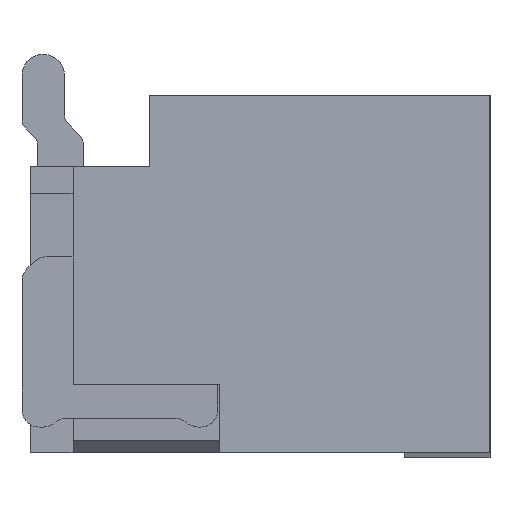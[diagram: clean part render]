
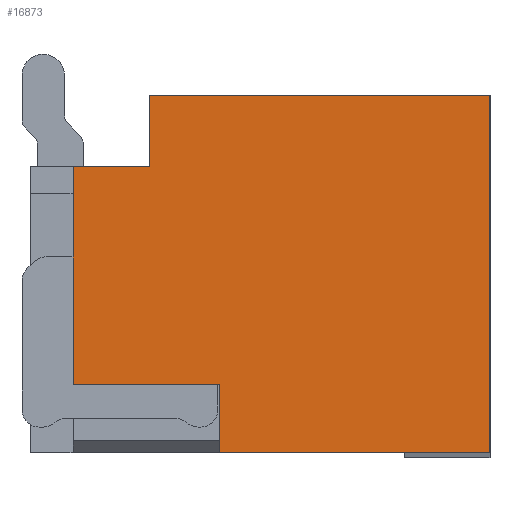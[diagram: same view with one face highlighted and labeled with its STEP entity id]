
A CAD part, left-side view. The second image highlights one B-rep face of the part: STEP entity #16873.
In plain terms, the highlighted planar face has unit normal (-1, 0, 0).
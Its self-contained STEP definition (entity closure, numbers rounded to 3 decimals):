
#173=DIRECTION('',(0.,0.,-1.));
#174=VECTOR('',#173,2.1);
#175=CARTESIAN_POINT('',(45.951,46.255,-2.015));
#176=LINE('',#175,#174);
#205=DIRECTION('',(0.,1.,0.));
#206=VECTOR('',#205,0.45);
#207=CARTESIAN_POINT('',(45.951,48.255,-2.435));
#208=LINE('',#207,#206);
#209=DIRECTION('',(0.,1.,0.));
#210=VECTOR('',#209,2.);
#211=CARTESIAN_POINT('',(45.951,46.255,-2.015));
#212=LINE('',#211,#210);
#213=DIRECTION('',(0.,0.,-1.));
#214=VECTOR('',#213,0.4);
#215=CARTESIAN_POINT('',(45.951,47.845,-3.715));
#216=LINE('',#215,#214);
#465=DIRECTION('',(0.,0.,1.));
#466=VECTOR('',#465,0.42);
#467=CARTESIAN_POINT('',(45.951,48.255,-2.435));
#468=LINE('',#467,#466);
#621=DIRECTION('',(0.,1.,0.));
#622=VECTOR('',#621,1.59);
#623=CARTESIAN_POINT('',(45.951,46.255,-4.115));
#624=LINE('',#623,#622);
#10499=DIRECTION('',(0.,0.,1.));
#10500=VECTOR('',#10499,1.28);
#10501=CARTESIAN_POINT('',(45.951,48.705,
-3.715));
#10502=LINE('',#10501,#10500);
#10597=DIRECTION('',(0.,1.,0.));
#10598=VECTOR('',#10597,0.86);
#10599=CARTESIAN_POINT('',(45.951,47.845,
-3.715));
#10600=LINE('',#10599,#10598);
#12771=CARTESIAN_POINT('',(45.951,48.705,
-2.435));
#12772=VERTEX_POINT('',#12771);
#12773=CARTESIAN_POINT('',(45.951,48.705,
-3.715));
#12774=VERTEX_POINT('',#12773);
#13315=CARTESIAN_POINT('',(45.951,47.845,
-4.115));
#13316=VERTEX_POINT('',#13315);
#13317=CARTESIAN_POINT('',(45.951,46.255,
-4.115));
#13318=VERTEX_POINT('',#13317);
#13319=CARTESIAN_POINT('',(45.951,47.845,
-3.715));
#13320=VERTEX_POINT('',#13319);
#13391=CARTESIAN_POINT('',(45.951,48.255,
-2.435));
#13392=VERTEX_POINT('',#13391);
#13623=CARTESIAN_POINT('',(45.951,48.255,
-2.015));
#13624=VERTEX_POINT('',#13623);
#13625=CARTESIAN_POINT('',(45.951,46.255,
-2.015));
#13626=VERTEX_POINT('',#13625);
#16852=CARTESIAN_POINT('',(45.951,75.644,
-2.446));
#16853=DIRECTION('',(-1.,0.,0.));
#16854=DIRECTION('',(0.,0.,1.));
#16855=AXIS2_PLACEMENT_3D('',#16852,#16853,#16854);
#16856=PLANE('',#16855);
#16858=ORIENTED_EDGE('',*,*,#16857,.F.);
#16860=ORIENTED_EDGE('',*,*,#16859,.T.);
#16861=ORIENTED_EDGE('',*,*,#16843,.F.);
#16862=ORIENTED_EDGE('',*,*,#16807,.T.);
#16864=ORIENTED_EDGE('',*,*,#16863,.T.);
#16866=ORIENTED_EDGE('',*,*,#16865,.F.);
#16868=ORIENTED_EDGE('',*,*,#16867,.T.);
#16870=ORIENTED_EDGE('',*,*,#16869,.T.);
#16871=EDGE_LOOP('',(#16858,#16860,#16861,#16862,#16864,#16866,#16868,#16870));
#16872=FACE_OUTER_BOUND('',#16871,.F.);
#16873=ADVANCED_FACE('',(#16872),#16856,.T.);
#16807=EDGE_CURVE('',#13626,#13318,#176,.T.);
#16843=EDGE_CURVE('',#13626,#13624,#212,.T.);
#16857=EDGE_CURVE('',#13392,#12772,#208,.T.);
#16859=EDGE_CURVE('',#13392,#13624,#468,.T.);
#16863=EDGE_CURVE('',#13318,#13316,#624,.T.);
#16865=EDGE_CURVE('',#13320,#13316,#216,.T.);
#16867=EDGE_CURVE('',#13320,#12774,#10600,.T.);
#16869=EDGE_CURVE('',#12774,#12772,#10502,.T.);
